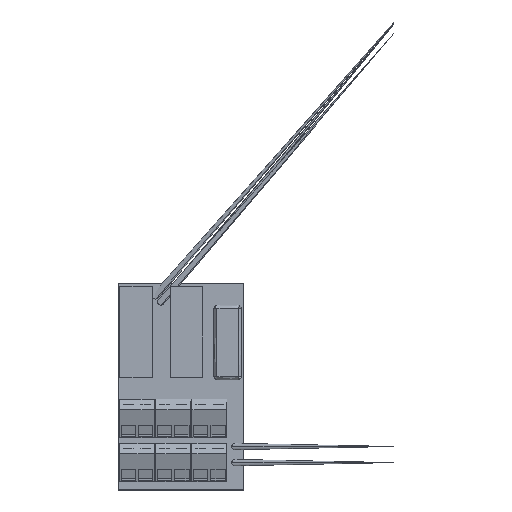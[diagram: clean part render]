
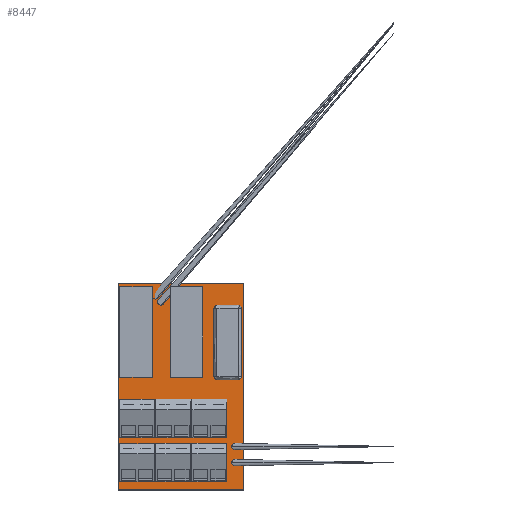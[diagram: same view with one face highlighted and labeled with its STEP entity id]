
A CAD part, top view. The second image highlights one B-rep face of the part: STEP entity #8447.
In plain terms, the highlighted planar face has unit normal (0, 0, 1).
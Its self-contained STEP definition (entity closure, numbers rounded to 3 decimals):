
#8447=ADVANCED_FACE('',(#8766),#12691,.T.);
#8766=FACE_OUTER_BOUND('',#9088,.T.);
#9088=EDGE_LOOP('',(#9626,#9627,#9628,#9629));
#9626=ORIENTED_EDGE('',*,*,#10792,.F.);
#9627=ORIENTED_EDGE('',*,*,#10791,.F.);
#9628=ORIENTED_EDGE('',*,*,#10790,.F.);
#9629=ORIENTED_EDGE('',*,*,#10789,.F.);
#10789=EDGE_CURVE('',#12175,#12176,#11522,.T.);
#10790=EDGE_CURVE('',#12176,#12177,#11523,.T.);
#10791=EDGE_CURVE('',#12177,#12178,#11524,.T.);
#10792=EDGE_CURVE('',#12178,#12175,#11525,.T.);
#11522=B_SPLINE_CURVE_WITH_KNOTS('',1,(#19259,#19260),.UNSPECIFIED.,.F.,
 .F.,(2,2),(0.,59.944),.UNSPECIFIED.);
#11523=B_SPLINE_CURVE_WITH_KNOTS('',1,(#19261,#19262),.UNSPECIFIED.,.F.,
 .F.,(2,2),(59.944,99.568),.UNSPECIFIED.);
#11524=B_SPLINE_CURVE_WITH_KNOTS('',1,(#19263,#19264),.UNSPECIFIED.,.F.,
 .F.,(2,2),(99.568,159.512),.UNSPECIFIED.);
#11525=B_SPLINE_CURVE_WITH_KNOTS('',1,(#19265,#19266),.UNSPECIFIED.,.F.,
 .F.,(2,2),(159.512,199.136),.UNSPECIFIED.);
#12175=VERTEX_POINT('',#19247);
#12176=VERTEX_POINT('',#19248);
#12177=VERTEX_POINT('',#19249);
#12178=VERTEX_POINT('',#19250);
#12691=PLANE('',#12922);
#12922=AXIS2_PLACEMENT_3D('',#19238,#13138,$);
#13138=DIRECTION('',(0.,0.,1.));
#19238=CARTESIAN_POINT('',(0.,0.,1.6));
#19247=CARTESIAN_POINT('',(0.,0.,1.6));
#19248=CARTESIAN_POINT('',(0.,65.024,1.6));
#19249=CARTESIAN_POINT('',(39.624,65.024,1.6));
#19250=CARTESIAN_POINT('',(39.624,0.,1.6));
#19259=CARTESIAN_POINT('',(0.,0.,1.6));
#19260=CARTESIAN_POINT('',(0.,65.024,1.6));
#19261=CARTESIAN_POINT('',(0.,65.024,1.6));
#19262=CARTESIAN_POINT('',(39.624,65.024,1.6));
#19263=CARTESIAN_POINT('',(39.624,65.024,1.6));
#19264=CARTESIAN_POINT('',(39.624,0.,1.6));
#19265=CARTESIAN_POINT('',(39.624,0.,1.6));
#19266=CARTESIAN_POINT('',(0.,0.,1.6));
